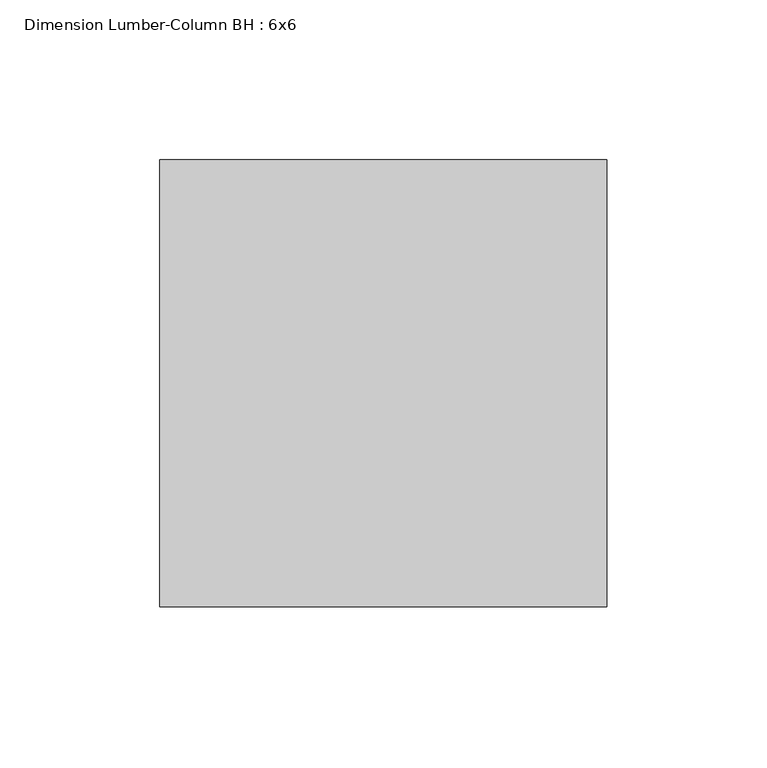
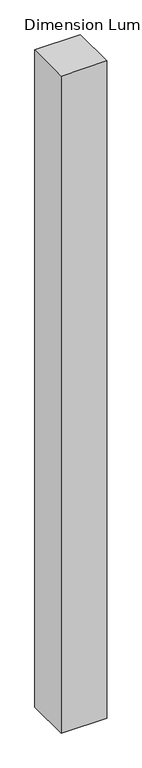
"""IFC4 building model written with IfcOpenShell, lengths in millimetres: column geometry, Dimension Lumber-Column BH : 6x6."""

from ifc_helpers import new_model, si_unit, frame, origin, place, context, project, spatial, polyline, outline, extrude, source, transform, mapped, element, save


def dimension_lumber_column_bh_6x6_a5d58985(model_context):
    return source(origin(), model_context, "Body", "SweptSolid", [
        extrude(outline(polyline([(69.85, 69.85), (69.85, -69.85), (-69.85, -69.85), (-69.85, 69.85), (69.85, 69.85)])), frame((0.0, 0.0, 3302.0), z_axis=(0.0, 0.0, 1.0), x_axis=(1.0, 0.0, 0.0)), (0.0, 0.0, 1.0), 2133.6),
    ])


if __name__ == "__main__":
    model = new_model("IFC4")
    model_context = context("Model", 3, world=origin())
    ifc_project = project(units=[si_unit("LENGTHUNIT", "METRE", prefix="MILLI")], contexts=[model_context])
    site = spatial("IfcSite", under=ifc_project)
    building = spatial("IfcBuilding", under=site)
    placement = place(None, origin())
    dimension_lumber_column_bh_6x6_shape = dimension_lumber_column_bh_6x6_a5d58985(model_context)
    element("IfcColumn", 1, ObjectType="Dimension Lumber-Column BH : 6x6", at=placement, inside=building, context=model_context, shape_type="MappedRepresentation", body=[
        mapped(dimension_lumber_column_bh_6x6_shape, transform((0.0, 0.0, 0.0), x_axis=(1.0, 0.0, 0.0), y_axis=(0.0, 1.0, 0.0), z_axis=(0.0, 0.0, 1.0))),
    ])
    save(model, "model.ifc")
